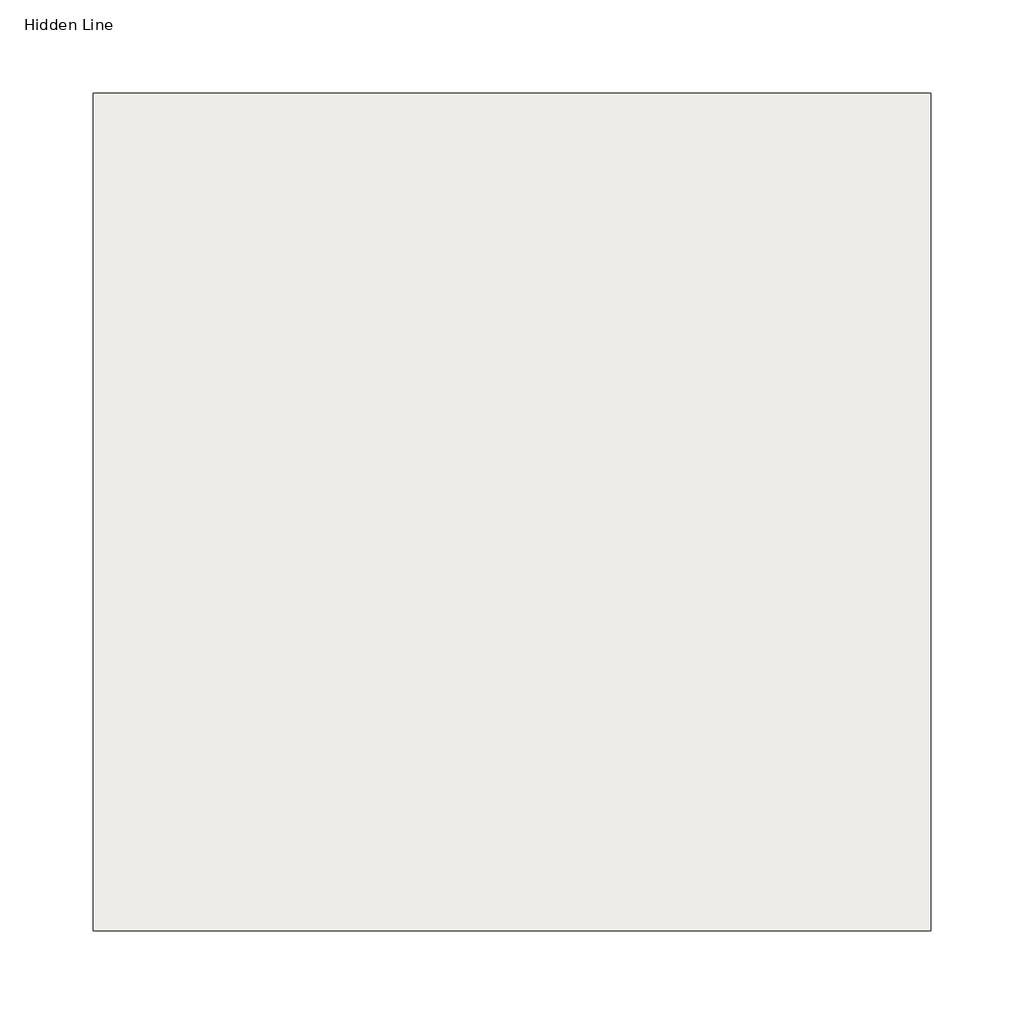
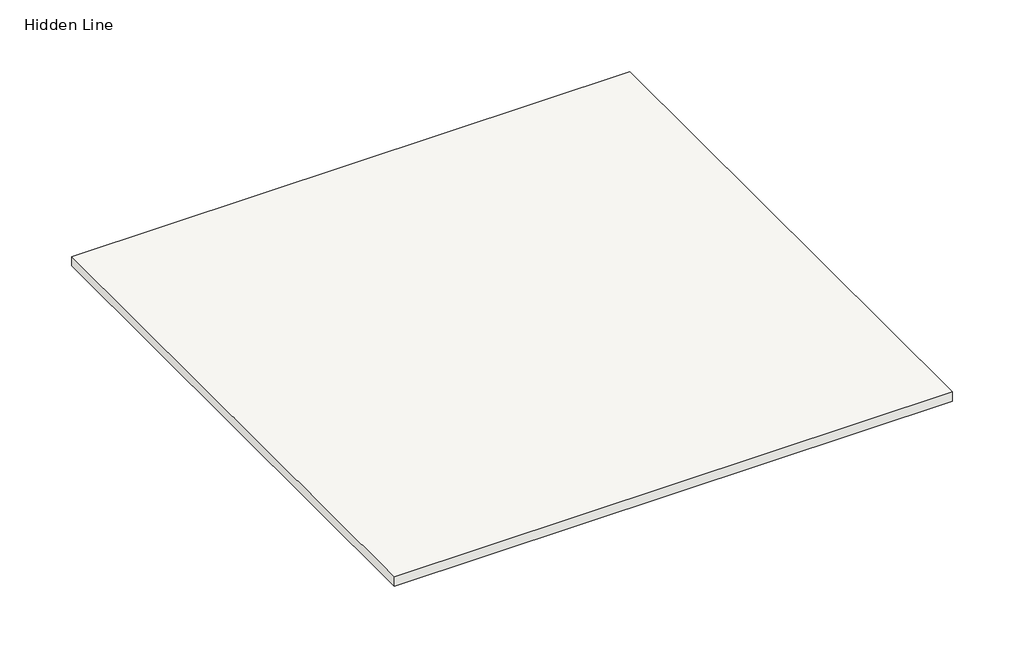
# One storey: 1 slab.
"""IFC4 building model written with IfcOpenShell, lengths in millimetres."""

from ifc_helpers import new_model, si_unit, frame, origin, place, context, project, spatial, polyline, outline, extrude, element, save

model = new_model("IFC4")

# Units and contexts
model_context = context("Model", 3, world=origin())
ifc_project = project(units=[si_unit("LENGTHUNIT", "METRE", prefix="MILLI")], contexts=[model_context])

# Site, building, storey
site = spatial("IfcSite", under=ifc_project)
building = spatial("IfcBuilding", under=site)
storey = spatial("IfcBuildingStorey", under=building, Name="Hidden Line", Elevation=0.0)

# Slab
placement = place(None, origin())
element("IfcSlab", 1, ObjectType="Heymat - Carpet Tile Flooring - Horizontal & Circular Grey", at=placement, inside=storey, context=model_context, shape_type="SweptSolid", body=[
    extrude(outline(polyline([(9452.7192628, 14201.9736862), (9002.7192628, 14201.9736862), (9002.7192628, 14651.9736862), (9452.7192628, 14651.9736862), (9452.7192628, 14201.9736862)])), frame((0.0, 0.0, -7.9), z_axis=(0.0, 0.0, 1.0), x_axis=(1.0, 0.0, 0.0)), (0.0, 0.0, 1.0), 7.9),
])

save(model, "model.ifc")
